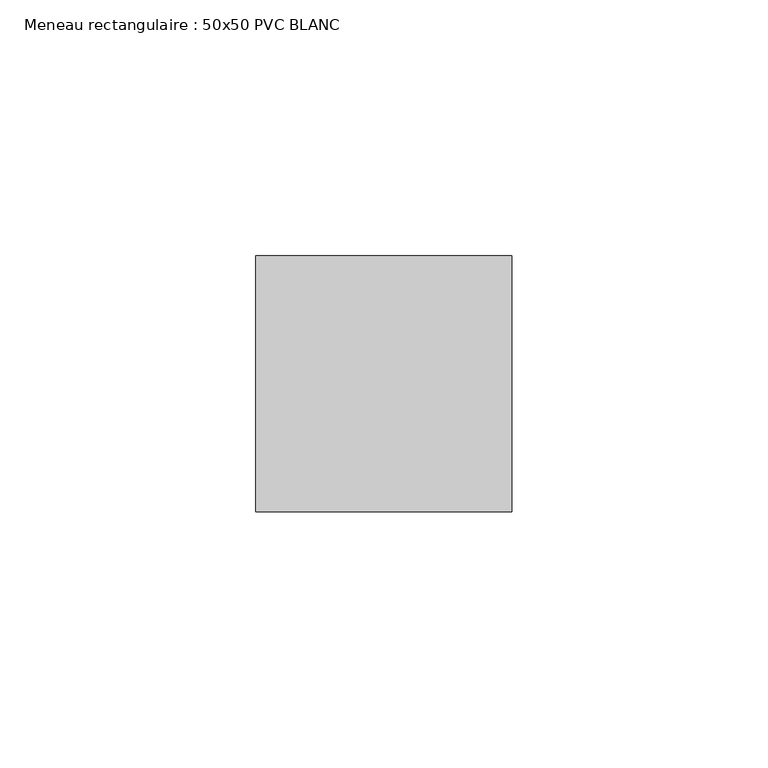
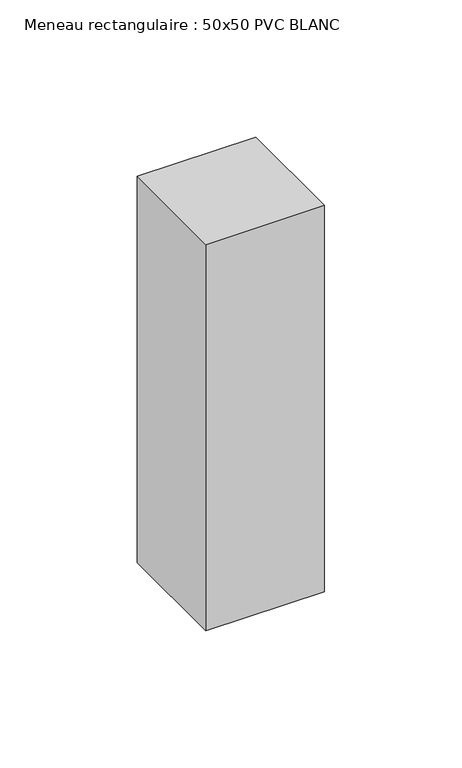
"""IFC4 building model written with IfcOpenShell, lengths in millimetres: member geometry, Meneau rectangulaire : 50x50 PVC BLANC."""

from ifc_helpers import new_model, si_unit, frame, origin, place, context, project, spatial, polyline, outline, extrude, source, transform, mapped, element, save


def meneau_rectangulaire_50x50_pvc_blanc_e722af0f(model_context):
    return source(origin(), model_context, "Body", "SweptSolid", [
        extrude(outline(polyline([(0.0, 0.0), (0.0, -50.0), (-50.0, -50.0), (-50.0, 0.0), (0.0, 0.0)])), frame((0.0, 0.0, -172.0), z_axis=(0.0, 0.0, 1.0), x_axis=(1.0, 0.0, 0.0)), (0.0, 0.0, 1.0), 172.0),
    ])


if __name__ == "__main__":
    model = new_model("IFC4")
    model_context = context("Model", 3, world=origin())
    ifc_project = project(units=[si_unit("LENGTHUNIT", "METRE", prefix="MILLI")], contexts=[model_context])
    site = spatial("IfcSite", under=ifc_project)
    building = spatial("IfcBuilding", under=site)
    placement = place(None, origin())
    meneau_rectangulaire_50x50_pvc_blanc_shape = meneau_rectangulaire_50x50_pvc_blanc_e722af0f(model_context)
    element("IfcMember", 1, ObjectType="Meneau rectangulaire : 50x50 PVC BLANC", at=placement, inside=building, context=model_context, shape_type="MappedRepresentation", body=[
        mapped(meneau_rectangulaire_50x50_pvc_blanc_shape, transform((0.0, 0.0, 0.0), x_axis=(1.0, 0.0, 0.0), y_axis=(0.0, 1.0, 0.0), z_axis=(0.0, 0.0, 1.0))),
    ])
    save(model, "model.ifc")
